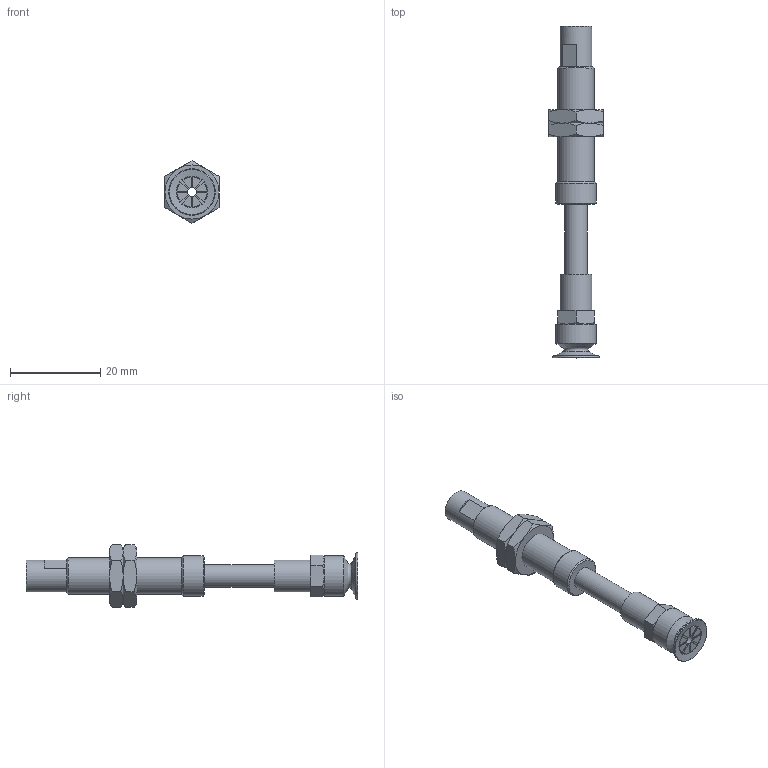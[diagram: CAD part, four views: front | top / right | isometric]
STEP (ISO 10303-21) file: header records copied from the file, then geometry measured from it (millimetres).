
FILE_DESCRIPTION(('STEP AP203'),'1');
FILE_NAME('-PE.stp','2025-04-01T05:15:50',(' '),(' '),'Spatial InterOp 3D',' ',' ');
FILE_SCHEMA(('CONFIG_CONTROL_DESIGN'));
Length unit declared in the file: millimetre
Products named in the file (9): BNABPATS-10B-15-※-PE; NUT; BODY; STOPPER; ZIG; TN-PS-10-M5; Setting screws-TN-PS-10-M5; BPAG-10B-※
Assembly tree (8 placements, depth 3):
  BNABPATS-10B-15-※-PE
    NUT
    NUT
    BODY
    STOPPER
    ZIG
    TN-PS-10-M5
      Setting screws-TN-PS-10-M5
    BPAG-10B-※
Bounding box: 12 x 73.5 x 13.86 mm (x, y, z)
Volume: 3117.8 mm3; surface area: 4697.7 mm2
Topology: 7 solids, 7 shells, 178 faces, 398 edges, 247 vertices
Faces by surface type: plane 85, cone 48, cylinder 35, torus 10
Full cylindrical faces by diameter (mm): 2 x3, 3.4 x1, 3.5 x1, 3.9 x1, 4 x5, 4.2 x2, 5 x3, 5.2 x1, 6 x2, 7 x3, 7.25 x2, 8 x1, 9 x2
Entity records: 5050 total; most frequent: CARTESIAN_POINT 932, DIRECTION 792, ORIENTED_EDGE 656, AXIS2_PLACEMENT_3D 336, EDGE_CURVE 328, EDGE_LOOP 260, VERTEX_POINT 232, FACE_OUTER_BOUND 215
